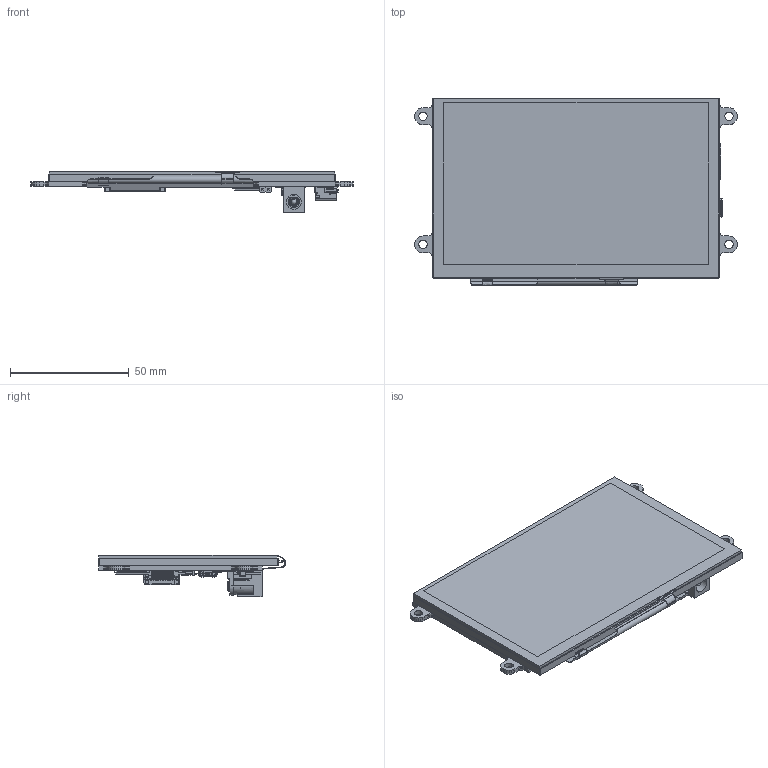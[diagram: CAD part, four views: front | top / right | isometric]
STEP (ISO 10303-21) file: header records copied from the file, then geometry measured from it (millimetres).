
FILE_DESCRIPTION (( 'STEP AP214' ), '1' );
FILE_NAME ('NHD-5.0-HDMI-N-RTXL-RTU (Res-Touch).STEP', '2017-09-06T13:54:59', ( '' ), ( '' ), 'SwSTEP 2.0', 'SolidWorks 2017', '' );
FILE_SCHEMA (( 'AUTOMOTIVE_DESIGN' ));
Length unit declared in the file: millimetre
Products named in the file (3): NHD-5.0-HDMI-N_PCB(Res-Touch); NHD-5.0-800480TF-ATXL#-T; NHD-5.0-HDMI-N-RTXL-RTU (Res-Touch)
Assembly tree (2 placements, depth 2):
  NHD-5.0-HDMI-N-RTXL-RTU (Res-Touch)
    NHD-5.0-800480TF-ATXL#-T
    NHD-5.0-HDMI-N_PCB(Res-Touch)
Bounding box: 135.8 x 78.65 x 17.3 mm (x, y, z)
Volume: 54639 mm3; surface area: 59373.4 mm2
Topology: 2 solids, 54 shells, 2766 faces, 14456 edges, 11185 vertices
Faces by surface type: plane 1872, cylinder 854, bspline 32, cone 8
Entity records: 172426 total; most frequent: CARTESIAN_POINT 31640, DIRECTION 22180, ORIENTED_EDGE 21199, EDGE_CURVE 14454, VERTEX_POINT 11185, VECTOR 10782, LINE 10782, AXIS2_PLACEMENT_3D 5699
